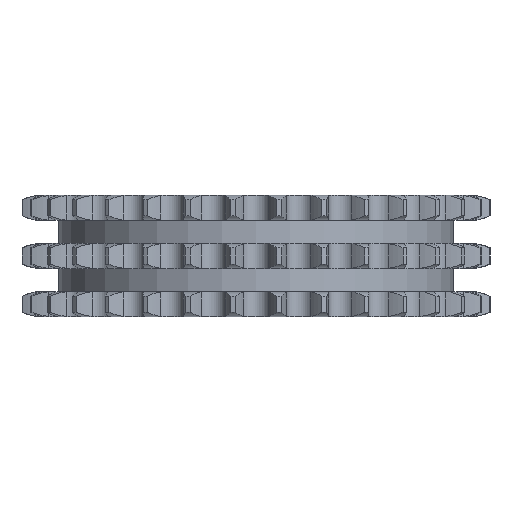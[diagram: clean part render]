
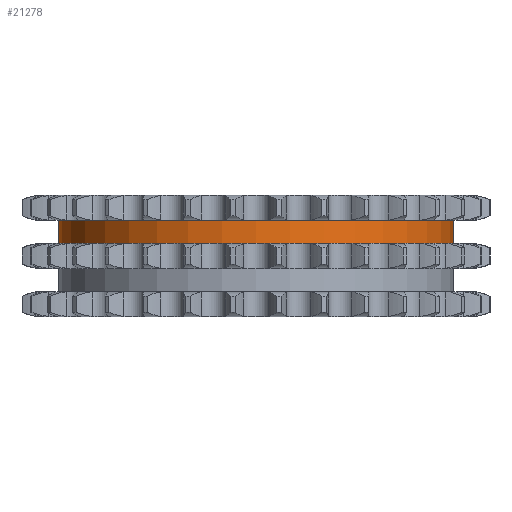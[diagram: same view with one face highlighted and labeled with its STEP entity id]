
A CAD part, left-side view. The second image highlights one B-rep face of the part: STEP entity #21278.
In plain terms, the highlighted cylindrical face has radius 56.785 mm (diameter 113.569 mm), a partial arc.
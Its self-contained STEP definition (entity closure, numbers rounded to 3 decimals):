
#4241=DIRECTION('',(0.,0.,-1.));
#4242=VECTOR('',#4241,6.65);
#4243=CARTESIAN_POINT('',(0.,56.785,10.25));
#4244=LINE('',#4243,#4242);
#4248=CARTESIAN_POINT('',(0.,0.,10.25));
#4249=DIRECTION('',(0.,0.,1.));
#4250=DIRECTION('',(0.,1.,0.));
#4251=AXIS2_PLACEMENT_3D('',#4248,#4249,#4250);
#4256=DIRECTION('',(0.,0.,-1.));
#4257=VECTOR('',#4256,6.65);
#4258=CARTESIAN_POINT('',(0.,-56.785,10.25));
#4259=LINE('',#4258,#4257);
#4263=CARTESIAN_POINT('',(0.,0.,3.6));
#4264=DIRECTION('',(0.,0.,1.));
#4265=DIRECTION('',(0.,1.,0.));
#4266=AXIS2_PLACEMENT_3D('',#4263,#4264,#4265);
#17028=CARTESIAN_POINT('',(0.,56.785,10.25));
#17029=CARTESIAN_POINT('',(0.,56.785,3.6));
#17030=VERTEX_POINT('',#17028);
#17031=VERTEX_POINT('',#17029);
#17032=CARTESIAN_POINT('',(0.,-56.785,10.25));
#17033=CARTESIAN_POINT('',(0.,-56.785,3.6));
#17034=VERTEX_POINT('',#17032);
#17035=VERTEX_POINT('',#17033);
#21266=CARTESIAN_POINT('',(0.,0.,11.275));
#21267=DIRECTION('',(0.,0.,-1.));
#21268=DIRECTION('',(0.,-1.,0.));
#21269=AXIS2_PLACEMENT_3D('',#21266,#21267,#21268);
#21270=CYLINDRICAL_SURFACE('',#21269,56.785);
#21271=ORIENTED_EDGE('',*,*,#21256,.F.);
#21272=ORIENTED_EDGE('',*,*,#21246,.T.);
#21273=ORIENTED_EDGE('',*,*,#21260,.T.);
#21275=ORIENTED_EDGE('',*,*,#21274,.F.);
#21276=EDGE_LOOP('',(#21271,#21272,#21273,#21275));
#21277=FACE_OUTER_BOUND('',#21276,.F.);
#21278=ADVANCED_FACE('',(#21277),#21270,.T.);
#4252=CIRCLE('',#4251,56.785);
#4267=CIRCLE('',#4266,56.785);
#21246=EDGE_CURVE('',#17030,#17034,#4252,.T.);
#21256=EDGE_CURVE('',#17030,#17031,#4244,.T.);
#21260=EDGE_CURVE('',#17034,#17035,#4259,.T.);
#21274=EDGE_CURVE('',#17031,#17035,#4267,.T.);
